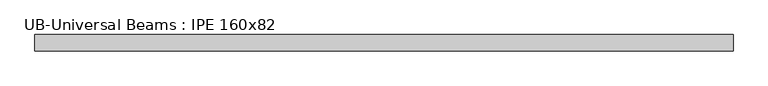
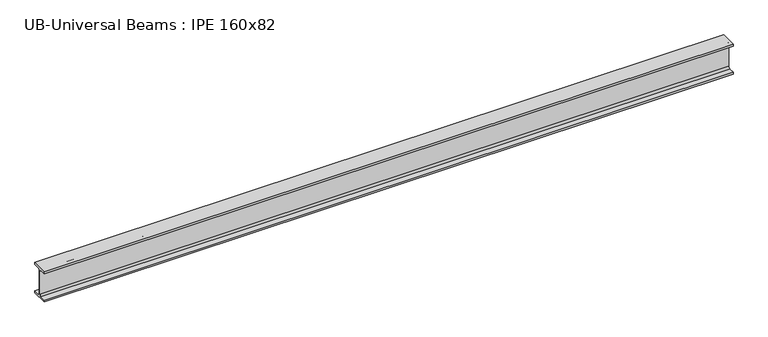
"""IFC4 building model written with IfcOpenShell, lengths in millimetres: beam geometry, UB-Universal Beams : IPE 160x82."""

from ifc_helpers import new_model, si_unit, point, frame, frame_2d, origin, place, context, project, spatial, polyline, circle_curve, trimmed, segment, composite_curve, outline, extrude, source, transform, mapped, element, save


def ub_universal_beams_ipe_160x82_7bbaf760(model_context):
    return source(origin(), model_context, "Body", "SweptSolid", [
        extrude(outline(composite_curve([segment(polyline([(-41.0, -69.8), (-11.9, -69.8)]), True, "CONTINUOUS"), segment(trimmed(circle_curve(frame_2d((-11.9, -60.9)), 8.9), [point((-11.9, -69.8))], [point((-3.0, -60.9))], True, "CARTESIAN"), True, "CONTINUOUS"), segment(polyline([(-3.0, -60.9), (-3.0, 60.9)]), True, "CONTINUOUS"), segment(trimmed(circle_curve(frame_2d((-11.9, 60.9)), 8.9), [point((-3.0, 60.9))], [point((-11.9, 69.8))], True, "CARTESIAN"), True, "CONTINUOUS"), segment(polyline([(-11.9, 69.8), (-41.0, 69.8), (-41.0, 80.0), (41.0, 80.0), (41.0, 69.8), (11.9, 69.8)]), True, "CONTINUOUS"), segment(trimmed(circle_curve(frame_2d((11.9, 60.9)), 8.9), [point((11.9, 69.8))], [point((3.0, 60.9))], True, "CARTESIAN"), True, "CONTINUOUS"), segment(polyline([(3.0, 60.9), (3.0, -60.9)]), True, "CONTINUOUS"), segment(trimmed(circle_curve(frame_2d((11.9, -60.9)), 8.9), [point((3.0, -60.9))], [point((11.9, -69.8))], True, "CARTESIAN"), True, "CONTINUOUS"), segment(polyline([(11.9, -69.8), (41.0, -69.8), (41.0, -80.0), (-41.0, -80.0), (-41.0, -69.8)]), True, "CONTINUOUS")], self_intersect=False)), frame((-1742.9, 0.0, 0.0), z_axis=(1.0, 0.0, 0.0), x_axis=(0.0, 1.0, 0.0)), (0.0, 0.0, 1.0), 3462.2),
    ])


if __name__ == "__main__":
    model = new_model("IFC4")
    model_context = context("Model", 3, world=origin())
    ifc_project = project(units=[si_unit("LENGTHUNIT", "METRE", prefix="MILLI")], contexts=[model_context])
    site = spatial("IfcSite", under=ifc_project)
    building = spatial("IfcBuilding", under=site)
    placement = place(None, origin())
    ub_universal_beams_ipe_160x82_shape = ub_universal_beams_ipe_160x82_7bbaf760(model_context)
    element("IfcBeam", 1, ObjectType="UB-Universal Beams : IPE 160x82", at=placement, inside=building, context=model_context, shape_type="MappedRepresentation", body=[
        mapped(ub_universal_beams_ipe_160x82_shape, transform((0.0, 0.0, 0.0), x_axis=(1.0, 0.0, 0.0), y_axis=(0.0, 1.0, 0.0), z_axis=(0.0, 0.0, 1.0))),
    ])
    save(model, "model.ifc")
